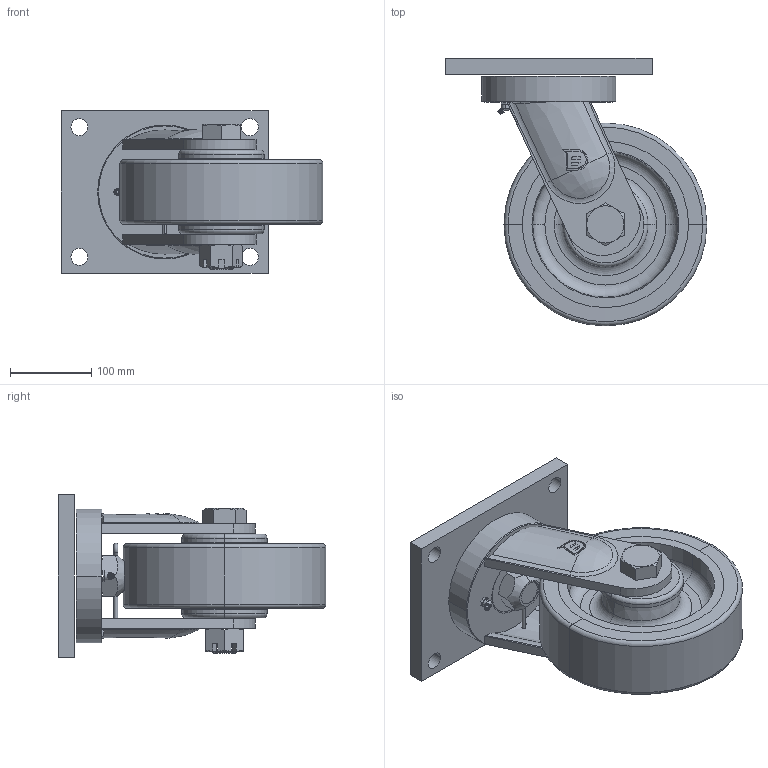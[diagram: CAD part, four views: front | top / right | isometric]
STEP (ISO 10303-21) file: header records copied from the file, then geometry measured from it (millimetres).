
FILE_DESCRIPTION((''),'2;1');
FILE_NAME('PRT0016','2025-08-27T11:19:04',('Administrator'),(''),'CREO PARAMETRIC BY PTC INC, 2022124','CREO PARAMETRIC BY PTC INC, 2022124','');
FILE_SCHEMA(('AUTOMOTIVE_DESIGN { 1 0 10303 214 1 1 1 1 }'));
Length unit declared in the file: millimetre
Products named in the file (1): PRT0016
Bounding box: 322.5 x 330 x 200 mm (x, y, z)
Surface area: 457919.4 mm2 (no closed solid volume)
Topology: 0 solids, 23 shells, 180 faces, 539 edges, 385 vertices
Faces by surface type: plane 68, cone 38, bspline 27, torus 25, cylinder 22
Entity records: 11449 total; most frequent: CARTESIAN_POINT 5554, DIRECTION 894, ORIENTED_EDGE 851, EDGE_CURVE 539, VERTEX_POINT 385, AXIS2_PLACEMENT_3D 362, EDGE_LOOP 211, CIRCLE 199
